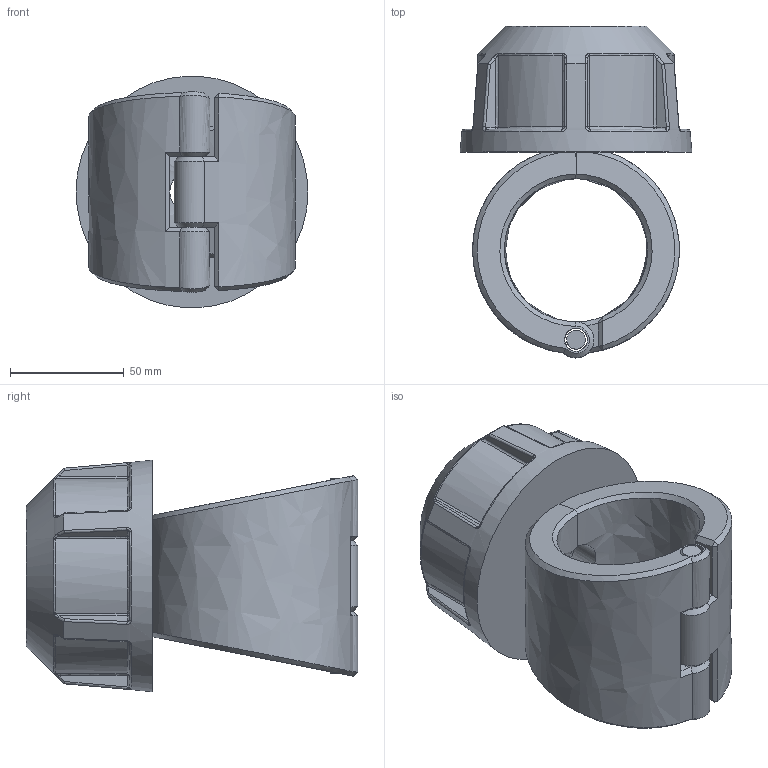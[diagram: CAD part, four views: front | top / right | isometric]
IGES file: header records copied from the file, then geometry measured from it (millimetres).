
Global section: file name: 163000063013; native system: Autodesk Inventor 2019; preprocessor: unknown; author: comp2; date: 20220203.114647; units: millimetre
Bounding box: 102 x 146 x 101.88 mm (x, y, z)
Volume: 512718.9 mm3; surface area: 83166.4 mm2
Topology: 4 solids, 4 shells, 203 faces, 486 edges, 293 vertices
Faces by surface type: bspline 203
